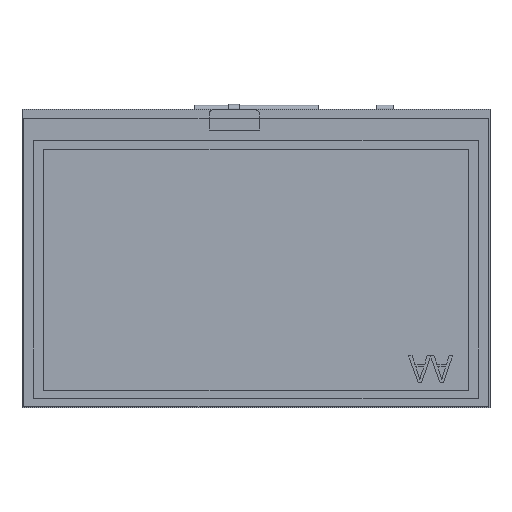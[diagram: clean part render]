
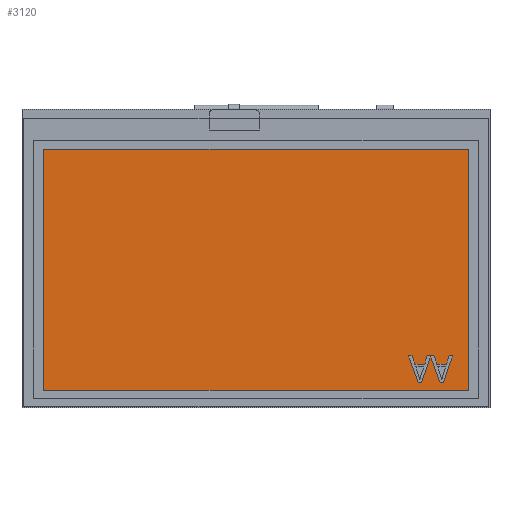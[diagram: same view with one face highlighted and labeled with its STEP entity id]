
A CAD part, top view. The second image highlights one B-rep face of the part: STEP entity #3120.
In plain terms, the highlighted planar face has unit normal (0, 0, 1).
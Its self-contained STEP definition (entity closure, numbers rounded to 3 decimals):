
#3120=ADVANCED_FACE('',(#3877),#3499,.T.);
#3499=PLANE('',#9943);
#3877=FACE_OUTER_BOUND('',#4282,.T.);
#4282=EDGE_LOOP('',(#5744,#5745,#5746,#5747));
#5744=ORIENTED_EDGE('',*,*,#7323,.T.);
#5745=ORIENTED_EDGE('',*,*,#7327,.T.);
#5746=ORIENTED_EDGE('',*,*,#7330,.T.);
#5747=ORIENTED_EDGE('',*,*,#7332,.T.);
#6524=VERTEX_POINT('',#13179);
#6525=VERTEX_POINT('',#13181);
#6527=VERTEX_POINT('',#13187);
#6529=VERTEX_POINT('',#13193);
#7323=EDGE_CURVE('',#6525,#6524,#8143,.T.);
#7327=EDGE_CURVE('',#6524,#6527,#8147,.T.);
#7330=EDGE_CURVE('',#6527,#6529,#8150,.T.);
#7332=EDGE_CURVE('',#6529,#6525,#8152,.T.);
#8143=LINE('',#13180,#8943);
#8147=LINE('',#13188,#8947);
#8150=LINE('',#13194,#8950);
#8152=LINE('',#13197,#8952);
#8943=VECTOR('',#11387,1.);
#8947=VECTOR('',#11393,1.);
#8950=VECTOR('',#11398,1.);
#8952=VECTOR('',#11402,1.);
#9943=AXIS2_PLACEMENT_3D('',#13199,#11405,#11406);
#11387=DIRECTION('',(0.,-1.,0.));
#11393=DIRECTION('',(1.,0.,0.));
#11398=DIRECTION('',(0.,1.,0.));
#11402=DIRECTION('',(-1.,0.,0.));
#11405=DIRECTION('',(0.,0.,1.));
#11406=DIRECTION('',(-1.,0.,0.));
#13179=CARTESIAN_POINT('',(-35.49,-27.93,5.1));
#13180=CARTESIAN_POINT('',(-35.49,26.37,5.1));
#13181=CARTESIAN_POINT('',(-35.49,26.37,5.1));
#13187=CARTESIAN_POINT('',(60.11,-27.93,5.1));
#13188=CARTESIAN_POINT('',(-35.49,-27.93,5.1));
#13193=CARTESIAN_POINT('',(60.11,26.37,5.1));
#13194=CARTESIAN_POINT('',(60.11,-27.93,5.1));
#13197=CARTESIAN_POINT('',(60.11,26.37,5.1));
#13199=CARTESIAN_POINT('',(0.,0.,5.1));
